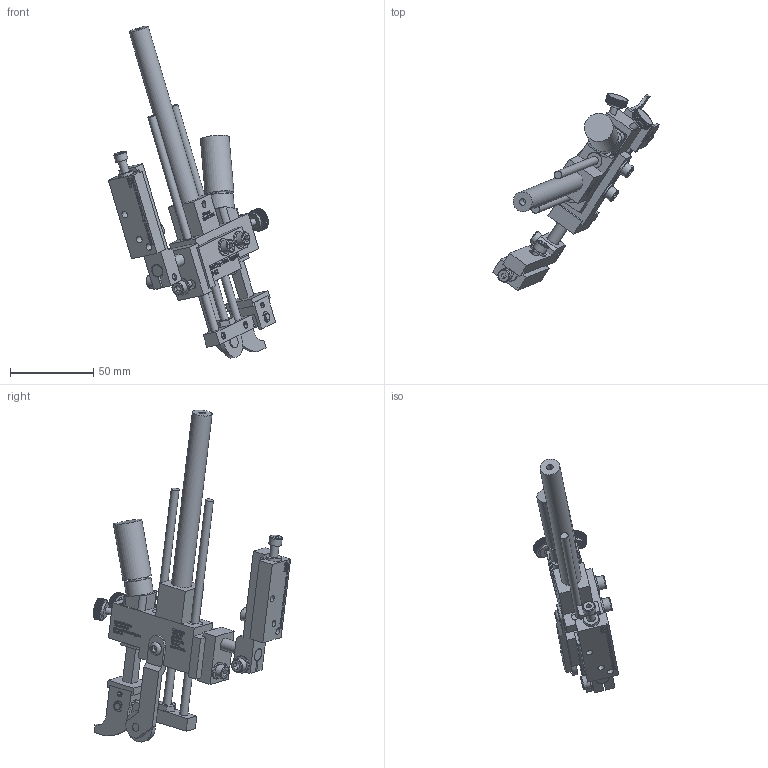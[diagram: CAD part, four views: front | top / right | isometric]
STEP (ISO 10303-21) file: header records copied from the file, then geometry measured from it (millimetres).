
FILE_DESCRIPTION((''),'2;1');
FILE_NAME('C:\Documents and Settings\Ron\My Documents\Inventor\Sprinter Drawing\Machines in Inventor\Model 44\Type\Ext Hd 1in\Brkt\Ret\Model 44 Ext HD 1in type Ret w brkt.stp','2009-01-20T10:06:53',('Ron'),(''),'Autodesk Inventor 2008','Autodesk Inventor 2008','');
FILE_SCHEMA(('AUTOMOTIVE_DESIGN { 1 0 10303 214 1 1 1 1 }'));
Length unit declared in the file: inch
Products named in the file (1): Model 44 Ext HD 1in type Ret w brkt
Bounding box: 100.26 x 118.08 x 198.93 mm (x, y, z)
Volume: 111561.8 mm3; surface area: 54795.7 mm2
Topology: 381 solids, 381 shells, 6608 faces, 16530 edges, 10286 vertices
Faces by surface type: plane 4573, bspline 1498, cylinder 473, cone 53, torus 11
Full cylindrical faces by diameter (mm): 3.175 x3, 3.505 x1, 3.962 x1, 4.064 x7, 4.166 x1, 4.699 x1, 4.75 x4, 4.775 x1, 4.826 x7, 5.08 x1, 5.156 x5, 5.207 x2, 5.41 x2, 6.096 x1, 7.212 x1, 7.239 x1, 7.353 x1, 7.62 x1, 7.925 x6, 7.938 x1, 8.128 x1, 9.017 x1, 9.525 x2, 10.312 x5, 10.922 x1, 11.036 x1, 11.938 x2, 14.478 x1, 16.256 x1, 17.272 x1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
Entity records: 212715 total; most frequent: CARTESIAN_POINT 59942, ORIENTED_EDGE 32580, DIRECTION 24770, EDGE_CURVE 16290, VECTOR 11990, LINE 11990, VERTEX_POINT 10210, EDGE_LOOP 7204
